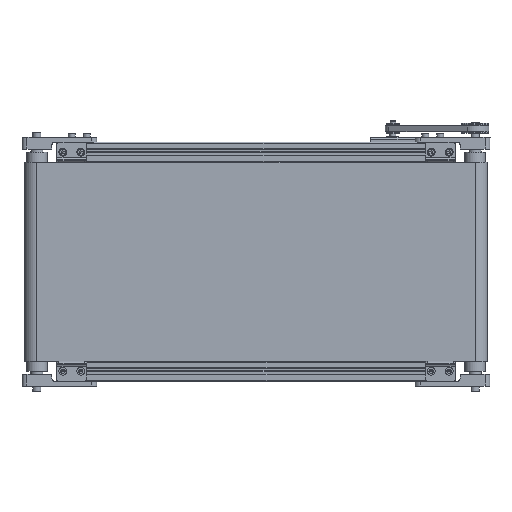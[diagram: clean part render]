
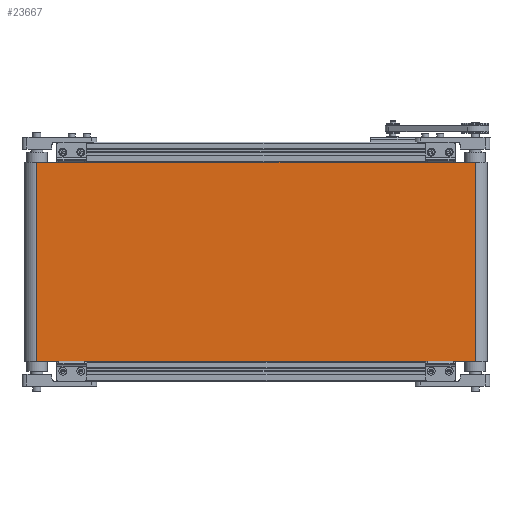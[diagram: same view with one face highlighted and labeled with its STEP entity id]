
A CAD part, front view. The second image highlights one B-rep face of the part: STEP entity #23667.
In plain terms, the highlighted planar face has unit normal (0, -1, 0).
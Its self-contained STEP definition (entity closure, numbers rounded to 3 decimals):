
#2894=FACE_OUTER_BOUND('',#4349,.T.);
#4349=EDGE_LOOP('',(#21246,#21247,#21248,#21249));
#7476=LINE('',#41653,#9501);
#7477=LINE('',#41655,#9502);
#7478=LINE('',#41657,#9503);
#7479=LINE('',#41658,#9504);
#9501=VECTOR('',#33239,10.);
#9502=VECTOR('',#33240,10.);
#9503=VECTOR('',#33241,10.);
#9504=VECTOR('',#33242,10.);
#11662=VERTEX_POINT('',#41651);
#11663=VERTEX_POINT('',#41652);
#11664=VERTEX_POINT('',#41654);
#11665=VERTEX_POINT('',#41656);
#14888=EDGE_CURVE('',#11662,#11663,#7476,.T.);
#14889=EDGE_CURVE('',#11662,#11664,#7477,.T.);
#14890=EDGE_CURVE('',#11665,#11664,#7478,.T.);
#14891=EDGE_CURVE('',#11663,#11665,#7479,.T.);
#21246=ORIENTED_EDGE('',*,*,#14888,.F.);
#21247=ORIENTED_EDGE('',*,*,#14889,.T.);
#21248=ORIENTED_EDGE('',*,*,#14890,.F.);
#21249=ORIENTED_EDGE('',*,*,#14891,.F.);
#22470=PLANE('',#26636);
#23667=ADVANCED_FACE('',(#2894),#22470,.T.);
#26636=AXIS2_PLACEMENT_3D('',#41650,#33237,#33238);
#33237=DIRECTION('center_axis',(0.,-1.,0.));
#33238=DIRECTION('ref_axis',(-1.,0.,0.));
#33239=DIRECTION('',(1.,0.,0.));
#33240=DIRECTION('',(0.,0.,-1.));
#33241=DIRECTION('',(-1.,0.,0.));
#33242=DIRECTION('',(0.,0.,-1.));
#41650=CARTESIAN_POINT('Origin',(0.,-12.5,0.));
#41651=CARTESIAN_POINT('',(-440.,-12.5,0.));
#41652=CARTESIAN_POINT('',(0.,-12.5,0.));
#41653=CARTESIAN_POINT('',(-440.,-12.5,0.));
#41654=CARTESIAN_POINT('',(-440.,-12.5,-200.));
#41655=CARTESIAN_POINT('',(-440.,-12.5,0.));
#41656=CARTESIAN_POINT('',(0.,-12.5,-200.));
#41657=CARTESIAN_POINT('',(-440.,-12.5,-200.));
#41658=CARTESIAN_POINT('',(0.,-12.5,0.));
